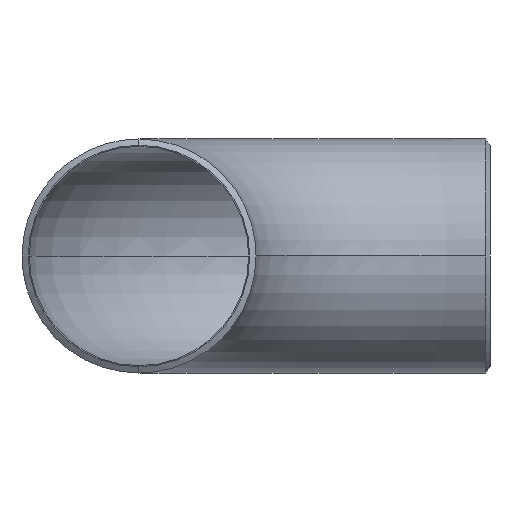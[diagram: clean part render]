
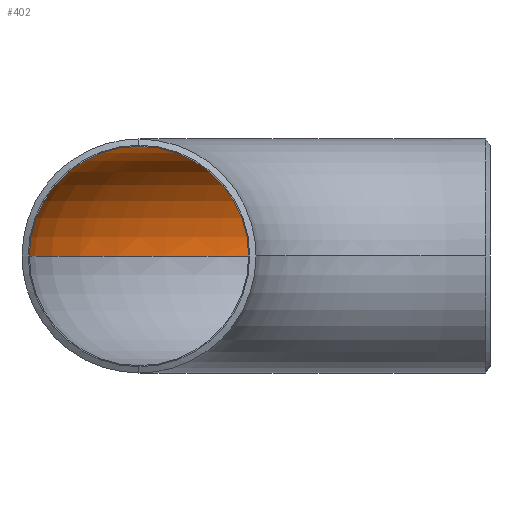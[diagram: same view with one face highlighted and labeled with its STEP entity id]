
A CAD part, front view. The second image highlights one B-rep face of the part: STEP entity #402.
In plain terms, the highlighted toroidal (fillet/blend) face has major radius 685.8 mm and minor radius 214.3 mm.
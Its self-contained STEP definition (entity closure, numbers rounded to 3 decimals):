
#18 = VERTEX_POINT ( 'NONE', #390 ) ;
#31 = DIRECTION ( 'NONE',  ( 0., 0., -1. ) ) ;
#32 = ORIENTED_EDGE ( 'NONE', *, *, #487, .F. ) ;
#40 = DIRECTION ( 'NONE',  ( 0., 0., -1. ) ) ;
#70 = DIRECTION ( 'NONE',  ( 0., 0., -1. ) ) ;
#71 = CARTESIAN_POINT ( 'NONE',  ( -471.5, -685.8, 0. ) ) ;
#78 = ORIENTED_EDGE ( 'NONE', *, *, #209, .T. ) ;
#92 = AXIS2_PLACEMENT_3D ( 'NONE', #309, #31, #493 ) ;
#104 = DIRECTION ( 'NONE',  ( -1., 0., 0. ) ) ;
#107 = AXIS2_PLACEMENT_3D ( 'NONE', #388, #104, #572 ) ;
#121 = AXIS2_PLACEMENT_3D ( 'NONE', #710, #40, #165 ) ;
#126 = DIRECTION ( 'NONE',  ( -1., 0., 0. ) ) ;
#128 = VERTEX_POINT ( 'NONE', #304 ) ;
#145 = CARTESIAN_POINT ( 'NONE',  ( -685.8, -685.8, 0. ) ) ;
#159 = EDGE_CURVE ( 'NONE', #437, #18, #305, .T. ) ;
#165 = DIRECTION ( 'NONE',  ( -1., 0., 0. ) ) ;
#187 = CIRCLE ( 'NONE', #107, 214.3 ) ;
#190 = CARTESIAN_POINT ( 'NONE',  ( -900.1, -685.8, 0. ) ) ;
#208 = AXIS2_PLACEMENT_3D ( 'NONE', #474, #586, #126 ) ;
#209 = EDGE_CURVE ( 'NONE', #420, #437, #569, .T. ) ;
#243 = DIRECTION ( 'NONE',  ( 0., -1., 0. ) ) ;
#304 = CARTESIAN_POINT ( 'NONE',  ( 0., -214.3, 0. ) ) ;
#305 = CIRCLE ( 'NONE', #121, 900.1 ) ;
#309 = CARTESIAN_POINT ( 'NONE',  ( 0., -685.8, 0. ) ) ;
#314 = CIRCLE ( 'NONE', #92, 471.5 ) ;
#329 = AXIS2_PLACEMENT_3D ( 'NONE', #145, #243, #70 ) ;
#388 = CARTESIAN_POINT ( 'NONE',  ( 0., 0., 0. ) ) ;
#390 = CARTESIAN_POINT ( 'NONE',  ( 0., 214.3, 0. ) ) ;
#402 = ADVANCED_FACE ( 'NONE', ( #403 ), #542, .F. ) ;
#403 = FACE_OUTER_BOUND ( 'NONE', #709, .T. ) ;
#420 = VERTEX_POINT ( 'NONE', #71 ) ;
#437 = VERTEX_POINT ( 'NONE', #190 ) ;
#474 = CARTESIAN_POINT ( 'NONE',  ( 0., -685.8, 0. ) ) ;
#478 = ORIENTED_EDGE ( 'NONE', *, *, #669, .F. ) ;
#487 = EDGE_CURVE ( 'NONE', #420, #128, #314, .T. ) ;
#493 = DIRECTION ( 'NONE',  ( -1., 0., 0. ) ) ;
#542 = TOROIDAL_SURFACE ( 'NONE', #208, 685.8, 214.3 ) ;
#555 = ORIENTED_EDGE ( 'NONE', *, *, #159, .T. ) ;
#569 = CIRCLE ( 'NONE', #329, 214.3 ) ;
#572 = DIRECTION ( 'NONE',  ( 0., 0., -1. ) ) ;
#586 = DIRECTION ( 'NONE',  ( 0., 0., -1. ) ) ;
#669 = EDGE_CURVE ( 'NONE', #128, #18, #187, .T. ) ;
#709 = EDGE_LOOP ( 'NONE', ( #78, #555, #478, #32 ) ) ;
#710 = CARTESIAN_POINT ( 'NONE',  ( 0., -685.8, 0. ) ) ;
